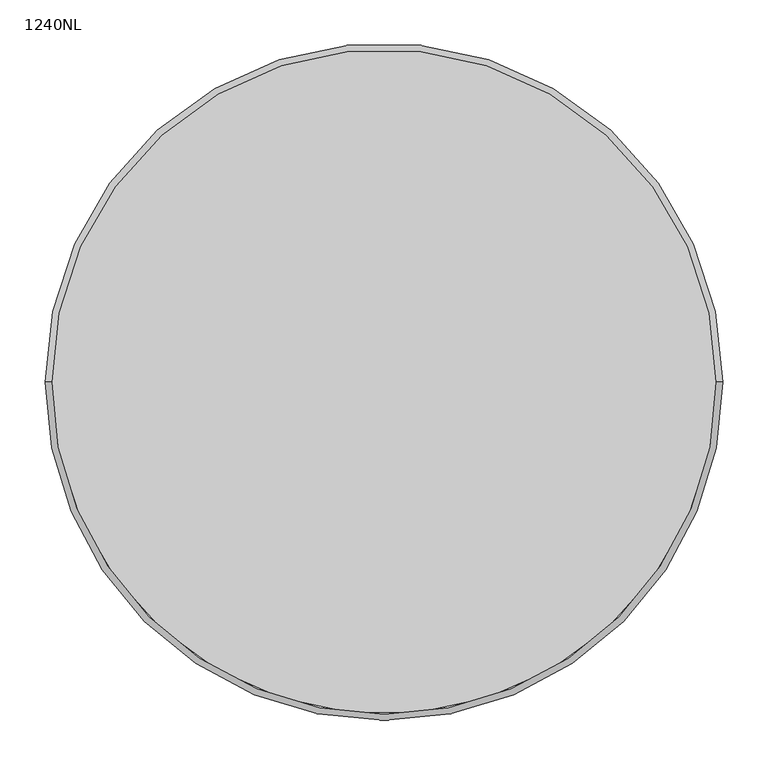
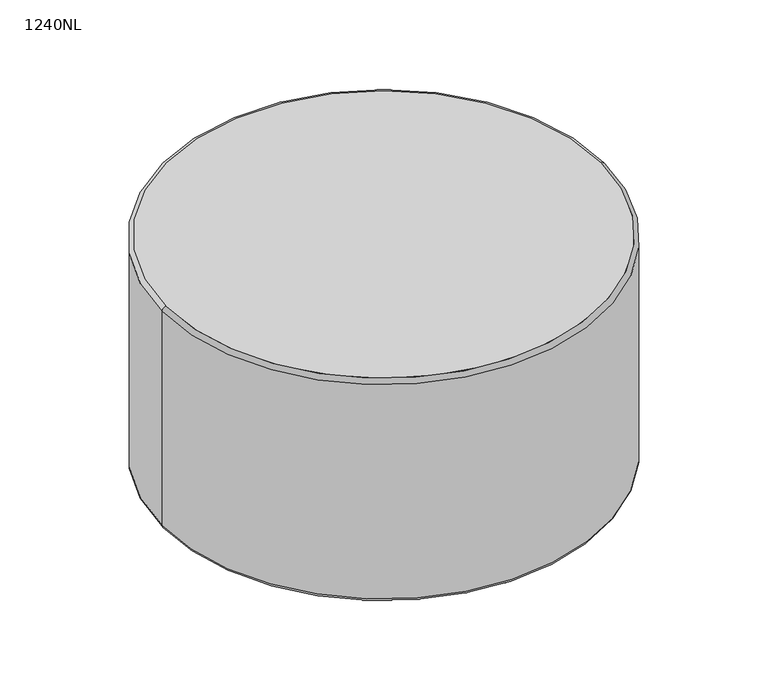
"""IFC4 building model written with IfcOpenShell, lengths in millimetres: furniture geometry, Laguna-Round_Ottomans-No_Legs-ERG : 1240NL."""

import ifcopenshell
import ifcopenshell.guid

model = None  # the IFC model being written
_history = None  # IfcOwnerHistory: only IFC2X3 demands one
_inside = {}  # id of a spatial element -> (the spatial element, [elements in it])
_under = {}  # id of a project, library or spatial element -> (it, [spatial elements below it])
_declared = {}  # id of a project -> (the project, [libraries it declares])
_typed = {}  # id of a type object -> (the type object, [elements of that type])
_made_of = {}  # id of a material, layer set ... -> (it, [elements and type objects made of it])


def new_model(schema):
    """Start an empty IFC model of exactly this schema.

    Asked for "IFC4X3", IfcOpenShell would pick the latest addendum, in which some entities
    have other attributes; the version numbers below select the first issue.
    IFC2X3 requires an IfcOwnerHistory on every rooted entity: one is made here for all.
    """
    global model, _history
    if schema == "IFC4X3":
        model = ifcopenshell.file(schema_version=(4, 3, 0, 0))
    else:
        model = ifcopenshell.file(schema=schema)
    _inside.clear()
    _under.clear()
    _declared.clear()
    _typed.clear()
    _made_of.clear()
    _history = None
    if model.schema == "IFC2X3":
        org = make("IfcOrganization", Name="unknown")
        user = make(
            "IfcPersonAndOrganization",
            ThePerson=make("IfcPerson", FamilyName="unknown"),
            TheOrganization=org,
        )
        app = make(
            "IfcApplication",
            ApplicationDeveloper=org,
            Version="unknown",
            ApplicationFullName="unknown",
            ApplicationIdentifier="unknown",
        )
        _history = make(
            "IfcOwnerHistory",
            OwningUser=user,
            OwningApplication=app,
            ChangeAction="ADDED",
            CreationDate=0,
        )
    return model


def make(cls, **values):
    """One entity of the class cls with the attributes given. An attribute that is None is left unset."""
    return model.create_entity(
        cls, **{name: value for name, value in values.items() if value is not None}
    )


def rooted(cls, **values):
    """An entity with a GlobalId (a new one), such as an element, a storey or a relation."""
    return make(cls, GlobalId=ifcopenshell.guid.new(), OwnerHistory=_history, **values)


def si_unit(unit_type, name, prefix=None):
    """IfcSIUnit, for example si_unit("LENGTHUNIT", "METRE", prefix="MILLI")."""
    return make("IfcSIUnit", UnitType=unit_type, Prefix=prefix, Name=name)


def assignment(units):
    """IfcUnitAssignment: the units of a project."""
    return None if units is None else make("IfcUnitAssignment", Units=units)


def point(xyz):
    """IfcCartesianPoint."""
    return None if xyz is None else make("IfcCartesianPoint", Coordinates=xyz)


def direction(xyz):
    """IfcDirection."""
    return None if xyz is None else make("IfcDirection", DirectionRatios=xyz)


def frame(location, z_axis=None, x_axis=None):
    """IfcAxis2Placement3D, a coordinate frame: its origin and axes. An axis left out is left unset."""
    return make(
        "IfcAxis2Placement3D",
        Location=point(location),
        Axis=direction(z_axis),
        RefDirection=direction(x_axis),
    )


def origin():
    """The frame at (0, 0, 0) with its axes left unset."""
    return frame((0.0, 0.0, 0.0))


def place(relative_to, where):
    """IfcLocalPlacement: puts the frame where relative to a parent placement (None: the world)."""
    return make(
        "IfcLocalPlacement", PlacementRelTo=relative_to, RelativePlacement=where
    )


def context(
    kind, dimensions, precision=None, world=None, true_north=None, identifier=None
):
    """IfcGeometricRepresentationContext, for example the 3D "Model" context."""
    return make(
        "IfcGeometricRepresentationContext",
        ContextIdentifier=identifier,
        ContextType=kind,
        CoordinateSpaceDimension=dimensions,
        Precision=precision,
        WorldCoordinateSystem=world,
        TrueNorth=true_north,
    )


def project(units=None, contexts=None):
    """IfcProject with its units and contexts."""
    return rooted(
        "IfcProject",
        Name="project",
        RepresentationContexts=contexts,
        UnitsInContext=assignment(units),
    )


def spatial(cls, under=None, at=None, **own):
    """A site, building, storey or space (cls), placed at a placement, below another one or the project."""
    s = rooted(cls, ObjectPlacement=at, **own)
    if under is not None:
        _under.setdefault(under.id(), (under, []))[1].append(s)
    return s


def circle_curve(where, radius):
    """IfcCircle in the frame where."""
    return make("IfcCircle", Position=where, Radius=radius)


def ellipse_curve(where, semi_axis1, semi_axis2):
    """IfcEllipse in the frame where."""
    return make(
        "IfcEllipse", Position=where, SemiAxis1=semi_axis1, SemiAxis2=semi_axis2
    )


def trimmed(basis, trim1, trim2, sense, master):
    """IfcTrimmedCurve: the piece of a basis curve between two trims."""
    return make(
        "IfcTrimmedCurve",
        BasisCurve=basis,
        Trim1=trim1,
        Trim2=trim2,
        SenseAgreement=sense,
        MasterRepresentation=master,
    )


def shape(context_of_items, identifier, shape_type, items):
    """IfcShapeRepresentation: the items that make up one representation, for example the "Body"."""
    return make(
        "IfcShapeRepresentation",
        ContextOfItems=context_of_items,
        RepresentationIdentifier=identifier,
        RepresentationType=shape_type,
        Items=items,
    )


def source(mapping_origin, context_of_items, identifier, shape_type, items):
    """IfcRepresentationMap: a shape defined once, which mapped items show again and again."""
    return make(
        "IfcRepresentationMap",
        MappingOrigin=mapping_origin,
        MappedRepresentation=shape(context_of_items, identifier, shape_type, items),
    )


def transform(
    local_origin,
    x_axis=None,
    y_axis=None,
    z_axis=None,
    scale=None,
    scale2=None,
    scale3=None,
    uniform=True,
):
    """IfcCartesianTransformationOperator3D, or its non-uniform kind. x_axis, y_axis, z_axis: its Axis1, 2, 3."""
    if uniform:
        return make(
            "IfcCartesianTransformationOperator3D",
            Axis1=direction(x_axis),
            Axis2=direction(y_axis),
            LocalOrigin=point(local_origin),
            Scale=scale,
            Axis3=direction(z_axis),
        )
    return make(
        "IfcCartesianTransformationOperator3DnonUniform",
        Axis1=direction(x_axis),
        Axis2=direction(y_axis),
        LocalOrigin=point(local_origin),
        Scale=scale,
        Axis3=direction(z_axis),
        Scale2=scale2,
        Scale3=scale3,
    )


def mapped(mapping_source, mapping_target):
    """IfcMappedItem: shows the shape of a source again, moved by a transform."""
    return make(
        "IfcMappedItem", MappingSource=mapping_source, MappingTarget=mapping_target
    )


def made_of(thing, what):
    """Note that an element or type object is made of a material, layer set ...; save() writes the relation."""
    if what is not None:
        _made_of.setdefault(what.id(), (what, []))[1].append(thing)
    return thing


def element(
    cls,
    number,
    at=None,
    inside=None,
    cuts=None,
    type_object=None,
    material=None,
    context=None,
    identifier="Body",
    shape_type=None,
    held_by="IfcProductDefinitionShape",
    body=None,
    shapes=None,
    **own,
):
    """One element of the class cls, such as IfcWall. Its Tag is "e" and its number.

    at: its placement. inside: the storey or other place that contains it. cuts: it is an
    opening in that element (IfcRelVoidsElement). A single representation is given by context,
    identifier, shape_type and body (its items); several are given by shapes. held_by: the class
    of the entity that holds the representations. save() writes the other relations.
    """
    e = rooted(cls, Tag="e%d" % number, ObjectPlacement=at, **own)
    if body is not None:
        shapes = [shape(context, identifier, shape_type, body)]
    if shapes is not None:
        e.Representation = make(held_by, Representations=shapes)
    if inside is not None:
        _inside.setdefault(inside.id(), (inside, []))[1].append(e)
    if cuts is not None:
        rooted(
            "IfcRelVoidsElement", RelatingBuildingElement=cuts, RelatedOpeningElement=e
        )
    if type_object is not None:
        _typed.setdefault(type_object.id(), (type_object, []))[1].append(e)
    return made_of(e, material)


def aggregate(whole, parts):
    """IfcRelAggregates: a whole, such as a stair, and the parts it consists of."""
    return rooted("IfcRelAggregates", RelatingObject=whole, RelatedObjects=parts)


def save(model, path):
    """Write the relations noted so far, then the file.

    IfcRelAggregates (storeys below a building ...), IfcRelContainedInSpatialStructure (elements
    in a storey), IfcRelDefinesByType, IfcRelAssociatesMaterial and IfcRelDeclares: one each for
    every whole, place, type object, material and project.
    """
    for whole, parts in _under.values():
        aggregate(whole, parts)
    for where, things in _inside.values():
        rooted(
            "IfcRelContainedInSpatialStructure",
            RelatedElements=things,
            RelatingStructure=where,
        )
    for kind, things in _typed.values():
        rooted("IfcRelDefinesByType", RelatedObjects=things, RelatingType=kind)
    for what, things in _made_of.values():
        rooted("IfcRelAssociatesMaterial", RelatedObjects=things, RelatingMaterial=what)
    for by, libraries in _declared.values():
        rooted("IfcRelDeclares", RelatingContext=by, RelatedDefinitions=libraries)
    model.write(path)


def plane_surface(at):
    """IfcPlane: the flat surface through the origin of the frame at, square to its z axis."""
    return make("IfcPlane", Position=at)


def cylinder_surface(at, radius):
    """IfcCylindricalSurface: all points at the distance radius from the z axis of the frame at."""
    return make("IfcCylindricalSurface", Position=at, Radius=radius)


def revolved_surface(curve, axis_point, axis_direction):
    """IfcSurfaceOfRevolution: the curve turned about the line through axis_point along axis_direction."""
    return make(
        "IfcSurfaceOfRevolution",
        SweptCurve=make("IfcArbitraryOpenProfileDef", ProfileType="CURVE", Curve=curve),
        AxisPosition=make("IfcAxis1Placement", Location=point(axis_point), Axis=direction(axis_direction)),
    )


def advanced_brep(points, edges, surfaces, faces):
    """IfcAdvancedBrep: a solid bounded by faces that lie on surfaces and meet in shared edges.

    An edge is (start, end): straight between two places in points (the first is 0);
    or (start, end, curve); or (start, end, curve, False) where it runs against its curve.
    A face is (place in surfaces, loops), or (place, loops, False) where it looks against
    its surface's normal. A loop lists edges by number (the first is 1), with a minus sign
    where the edge is run from its end to its start. The first loop is the outer one.
    """
    corners = [point(p) for p in points]
    vertices = [make("IfcVertexPoint", VertexGeometry=c) for c in corners]
    made = []
    for start, end, *more in edges:
        made.append(
            make(
                "IfcEdgeCurve",
                EdgeStart=vertices[start],
                EdgeEnd=vertices[end],
                EdgeGeometry=more[0] if more else make("IfcPolyline", Points=[corners[start], corners[end]]),
                SameSense=more[1] if len(more) > 1 else True,
            )
        )
    hull = []
    for where, loops, *sense in faces:
        bounds = []
        for j, loop in enumerate(loops):
            ring = [make("IfcOrientedEdge", EdgeElement=made[abs(k) - 1], Orientation=k > 0) for k in loop]
            bounds.append(
                make(
                    "IfcFaceOuterBound" if j == 0 else "IfcFaceBound",
                    Bound=make("IfcEdgeLoop", EdgeList=ring),
                    Orientation=True,
                )
            )
        hull.append(make("IfcAdvancedFace", Bounds=bounds, FaceSurface=surfaces[where], SameSense=sense[0] if sense else True))
    return make("IfcAdvancedBrep", Outer=make("IfcClosedShell", CfsFaces=hull))


def furniture_1240nl_d53e7f1e(model_context):
    return source(origin(), model_context, "Body", "AdvancedBrep", [
        advanced_brep(
        [(-4319.8421763, 1234.1558502, 10.16), (-4324.0852245, 1234.1558502, 10.16), (-4315.5991282, 1234.1558502, 10.16), (-4305.7638229, 1234.1558502, 0.0), (-4333.9205297, 1234.1558502, 0.0), (-4319.8421763, 1234.1558502, 0.0), (-4305.7638229, 1234.1558502, 3.9615026), (-4333.9205297, 1234.1558502, 3.9615026), (-4315.5991282, 1234.1558502, 3.9615026), (-4324.0852245, 1234.1558502, 3.9615026)],
        [
            (0, 1),
            (1, 2, circle_curve(frame((-4319.8421763, 1234.1558502, 10.16), z_axis=(0.0, 0.0, 1.0), x_axis=(-1.0, 0.0, 0.0)), 4.2430482)),
            (2, 0),
            (2, 1, circle_curve(frame((-4319.8421763, 1234.1558502, 10.16), z_axis=(0.0, 0.0, 1.0), x_axis=(-1.0, 0.0, 0.0)), 4.2430482)),
            (3, 4, circle_curve(frame((-4319.8421763, 1234.1558502, 0.0), z_axis=(0.0, 0.0, -1.0), x_axis=(-1.0, 0.0, 0.0)), 14.0783534)),
            (4, 5),
            (5, 3),
            (4, 3, circle_curve(frame((-4319.8421763, 1234.1558502, 0.0), z_axis=(0.0, 0.0, -1.0), x_axis=(-1.0, 0.0, 0.0)), 14.0783534)),
            (6, 7, circle_curve(frame((-4319.8421763, 1234.1558502, 3.9615026), z_axis=(0.0, 0.0, -1.0), x_axis=(-1.0, 0.0, 0.0)), 14.0783534)),
            (7, 4),
            (3, 6),
            (7, 6, circle_curve(frame((-4319.8421763, 1234.1558502, 3.9615026), z_axis=(0.0, 0.0, -1.0), x_axis=(-1.0, 0.0, 0.0)), 14.0783534)),
            (8, 9, circle_curve(frame((-4319.8421763, 1234.1558502, 3.9615026), z_axis=(0.0, 0.0, -1.0), x_axis=(-1.0, 0.0, 0.0)), 4.2430482)),
            (9, 7),
            (6, 8),
            (9, 8, circle_curve(frame((-4319.8421763, 1234.1558502, 3.9615026), z_axis=(0.0, 0.0, -1.0), x_axis=(-1.0, 0.0, 0.0)), 4.2430482)),
            (1, 9),
            (8, 2),
        ],
        [
            plane_surface(frame((-4319.8421763, 1234.1558502, 10.16), z_axis=(0.0, 0.0, 1.0), x_axis=(-1.0, 0.0, 0.0))),
            plane_surface(frame((-4319.8421763, 1234.1558502, 0.0), z_axis=(0.0, 0.0, -1.0), x_axis=(-1.0, 0.0, 0.0))),
            cylinder_surface(frame((-4319.8421763, 1234.1558502, 80.01), z_axis=(0.0, 0.0, 1.0), x_axis=(-1.0, 0.0, 0.0)), 14.0783534),
            plane_surface(frame((-4319.8421763, 1234.1558502, 3.9615026), z_axis=(0.0, 0.0, 1.0), x_axis=(-1.0, 0.0, 0.0))),
            cylinder_surface(frame((-4319.8421763, 1234.1558502, 80.01), z_axis=(0.0, 0.0, 1.0), x_axis=(-1.0, 0.0, 0.0)), 4.2430482),
        ],
        [
            (0, [[1, 2, 3]]),
            (0, [[-3, 4, -1]]),
            (1, [[5, 6, 7]]),
            (1, [[8, -7, -6]]),
            (2, [[9, 10, -5, 11]]),
            (2, [[12, -11, -8, -10]]),
            (3, [[13, 14, -9, 15]]),
            (3, [[16, -15, -12, -14]]),
            (4, [[-2, 17, -13, 18]]),
            (4, [[-4, -18, -16, -17]]),
        ],
    ),
        advanced_brep(
        [(-5009.8852245, 1234.1558502, 3.9615026), (-5001.3991282, 1234.1558502, 3.9615026), (-5001.3991282, 1234.1558502, 10.16), (-5009.8852245, 1234.1558502, 10.16), (-5019.7205297, 1234.1558502, 3.9615026), (-4991.5638229, 1234.1558502, 3.9615026), (-5019.7205297, 1234.1558502, 0.0), (-4991.5638229, 1234.1558502, 0.0), (-5005.6421763, 1234.1558502, 0.0), (-5005.6421763, 1234.1558502, 10.16)],
        [
            (0, 1, circle_curve(frame((-5005.6421763, 1234.1558502, 3.9615026), z_axis=(0.0, 0.0, 1.0), x_axis=(1.0, 0.0, 0.0)), 4.2430482)),
            (1, 2),
            (2, 3, circle_curve(frame((-5005.6421763, 1234.1558502, 10.16), z_axis=(0.0, 0.0, -1.0), x_axis=(1.0, 0.0, 0.0)), 4.2430482)),
            (3, 0),
            (1, 0, circle_curve(frame((-5005.6421763, 1234.1558502, 3.9615026), z_axis=(0.0, 0.0, 1.0), x_axis=(1.0, 0.0, 0.0)), 4.2430482)),
            (3, 2, circle_curve(frame((-5005.6421763, 1234.1558502, 10.16), z_axis=(0.0, 0.0, -1.0), x_axis=(1.0, 0.0, 0.0)), 4.2430482)),
            (4, 5, circle_curve(frame((-5005.6421763, 1234.1558502, 3.9615026), z_axis=(0.0, 0.0, 1.0), x_axis=(1.0, 0.0, 0.0)), 14.0783534)),
            (5, 1),
            (0, 4),
            (5, 4, circle_curve(frame((-5005.6421763, 1234.1558502, 3.9615026), z_axis=(0.0, 0.0, 1.0), x_axis=(1.0, 0.0, 0.0)), 14.0783534)),
            (6, 7, circle_curve(frame((-5005.6421763, 1234.1558502, 0.0), z_axis=(0.0, 0.0, 1.0), x_axis=(1.0, 0.0, 0.0)), 14.0783534)),
            (7, 5),
            (4, 6),
            (7, 6, circle_curve(frame((-5005.6421763, 1234.1558502, 0.0), z_axis=(0.0, 0.0, 1.0), x_axis=(1.0, 0.0, 0.0)), 14.0783534)),
            (8, 7),
            (6, 8),
            (2, 9),
            (9, 3),
        ],
        [
            cylinder_surface(frame((-5005.6421763, 1234.1558502, 29.21), z_axis=(0.0, 0.0, -1.0), x_axis=(1.0, 0.0, 0.0)), 4.2430482),
            plane_surface(frame((-5005.6421763, 1234.1558502, 3.9615026), z_axis=(0.0, 0.0, 1.0), x_axis=(1.0, 0.0, 0.0))),
            cylinder_surface(frame((-5005.6421763, 1234.1558502, 29.21), z_axis=(0.0, 0.0, -1.0), x_axis=(1.0, 0.0, 0.0)), 14.0783534),
            plane_surface(frame((-5005.6421763, 1234.1558502, 0.0), z_axis=(0.0, 0.0, -1.0), x_axis=(1.0, 0.0, 0.0))),
            plane_surface(frame((-5005.6421763, 1234.1558502, 10.16), z_axis=(0.0, 0.0, 1.0), x_axis=(1.0, 0.0, 0.0))),
        ],
        [
            (0, [[1, 2, 3, 4]]),
            (0, [[5, -4, 6, -2]]),
            (1, [[7, 8, -1, 9]]),
            (1, [[10, -9, -5, -8]]),
            (2, [[11, 12, -7, 13]]),
            (2, [[14, -13, -10, -12]]),
            (3, [[15, -11, 16]]),
            (3, [[-16, -14, -15]]),
            (4, [[-3, 17, 18]]),
            (4, [[-6, -18, -17]]),
        ],
    ),
        advanced_brep(
        [(-4662.7421763, 895.4988983, 3.9615026), (-4662.7421763, 887.012802, 3.9615026), (-4662.7421763, 887.012802, 10.16), (-4662.7421763, 895.4988983, 10.16), (-4662.7421763, 905.3342036, 3.9615026), (-4662.7421763, 877.1774967, 3.9615026), (-4662.7421763, 905.3342036, 0.0), (-4662.7421763, 877.1774967, 0.0), (-4662.7421763, 891.2558502, 0.0), (-4662.7421763, 891.2558502, 10.16)],
        [
            (0, 1, circle_curve(frame((-4662.7421763, 891.2558502, 3.9615026), z_axis=(0.0, 0.0, 1.0), x_axis=(0.0, -1.0, 0.0)), 4.2430482)),
            (1, 2),
            (2, 3, circle_curve(frame((-4662.7421763, 891.2558502, 10.16), z_axis=(0.0, 0.0, -1.0), x_axis=(0.0, -1.0, 0.0)), 4.2430482)),
            (3, 0),
            (1, 0, circle_curve(frame((-4662.7421763, 891.2558502, 3.9615026), z_axis=(0.0, 0.0, 1.0), x_axis=(0.0, -1.0, 0.0)), 4.2430482)),
            (3, 2, circle_curve(frame((-4662.7421763, 891.2558502, 10.16), z_axis=(0.0, 0.0, -1.0), x_axis=(0.0, -1.0, 0.0)), 4.2430482)),
            (4, 5, circle_curve(frame((-4662.7421763, 891.2558502, 3.9615026), z_axis=(0.0, 0.0, 1.0), x_axis=(0.0, -1.0, 0.0)), 14.0783534)),
            (5, 1),
            (0, 4),
            (5, 4, circle_curve(frame((-4662.7421763, 891.2558502, 3.9615026), z_axis=(0.0, 0.0, 1.0), x_axis=(0.0, -1.0, 0.0)), 14.0783534)),
            (6, 7, circle_curve(frame((-4662.7421763, 891.2558502, 0.0), z_axis=(0.0, 0.0, 1.0), x_axis=(0.0, -1.0, 0.0)), 14.0783534)),
            (7, 5),
            (4, 6),
            (7, 6, circle_curve(frame((-4662.7421763, 891.2558502, 0.0), z_axis=(0.0, 0.0, 1.0), x_axis=(0.0, -1.0, 0.0)), 14.0783534)),
            (8, 7),
            (6, 8),
            (2, 9),
            (9, 3),
        ],
        [
            cylinder_surface(frame((-4662.7421763, 891.2558502, 39.775957), z_axis=(0.0, 0.0, -1.0), x_axis=(0.0, -1.0, 0.0)), 4.2430482),
            plane_surface(frame((-4662.7421763, 891.2558502, 3.9615026), z_axis=(0.0, 0.0, 1.0), x_axis=(0.0, -1.0, 0.0))),
            cylinder_surface(frame((-4662.7421763, 891.2558502, 39.775957), z_axis=(0.0, 0.0, -1.0), x_axis=(0.0, -1.0, 0.0)), 14.0783534),
            plane_surface(frame((-4662.7421763, 891.2558502, 0.0), z_axis=(0.0, 0.0, -1.0), x_axis=(0.0, -1.0, 0.0))),
            plane_surface(frame((-4662.7421763, 891.2558502, 10.16), z_axis=(0.0, 0.0, 1.0), x_axis=(0.0, -1.0, 0.0))),
        ],
        [
            (0, [[1, 2, 3, 4]]),
            (0, [[5, -4, 6, -2]]),
            (1, [[7, 8, -1, 9]]),
            (1, [[10, -9, -5, -8]]),
            (2, [[11, 12, -7, 13]]),
            (2, [[14, -13, -10, -12]]),
            (3, [[15, -11, 16]]),
            (3, [[-16, -14, -15]]),
            (4, [[-3, 17, 18]]),
            (4, [[-6, -18, -17]]),
        ],
    ),
        advanced_brep(
        [(-4662.7421763, 1581.2988983, 3.9615026), (-4662.7421763, 1572.812802, 3.9615026), (-4662.7421763, 1572.812802, 10.16), (-4662.7421763, 1581.2988983, 10.16), (-4662.7421763, 1591.1342036, 3.9615026), (-4662.7421763, 1562.9774967, 3.9615026), (-4662.7421763, 1591.1342036, 0.0), (-4662.7421763, 1562.9774967, 0.0), (-4662.7421763, 1577.0558502, 0.0), (-4662.7421763, 1577.0558502, 10.16)],
        [
            (0, 1, circle_curve(frame((-4662.7421763, 1577.0558502, 3.9615026), z_axis=(0.0, 0.0, 1.0), x_axis=(0.0, -1.0, 0.0)), 4.2430482)),
            (1, 2),
            (2, 3, circle_curve(frame((-4662.7421763, 1577.0558502, 10.16), z_axis=(0.0, 0.0, -1.0), x_axis=(0.0, -1.0, 0.0)), 4.2430482)),
            (3, 0),
            (1, 0, circle_curve(frame((-4662.7421763, 1577.0558502, 3.9615026), z_axis=(0.0, 0.0, 1.0), x_axis=(0.0, -1.0, 0.0)), 4.2430482)),
            (3, 2, circle_curve(frame((-4662.7421763, 1577.0558502, 10.16), z_axis=(0.0, 0.0, -1.0), x_axis=(0.0, -1.0, 0.0)), 4.2430482)),
            (4, 5, circle_curve(frame((-4662.7421763, 1577.0558502, 3.9615026), z_axis=(0.0, 0.0, 1.0), x_axis=(0.0, -1.0, 0.0)), 14.0783534)),
            (5, 1),
            (0, 4),
            (5, 4, circle_curve(frame((-4662.7421763, 1577.0558502, 3.9615026), z_axis=(0.0, 0.0, 1.0), x_axis=(0.0, -1.0, 0.0)), 14.0783534)),
            (6, 7, circle_curve(frame((-4662.7421763, 1577.0558502, 0.0), z_axis=(0.0, 0.0, 1.0), x_axis=(0.0, -1.0, 0.0)), 14.0783534)),
            (7, 5),
            (4, 6),
            (7, 6, circle_curve(frame((-4662.7421763, 1577.0558502, 0.0), z_axis=(0.0, 0.0, 1.0), x_axis=(0.0, -1.0, 0.0)), 14.0783534)),
            (8, 7),
            (6, 8),
            (2, 9),
            (9, 3),
        ],
        [
            cylinder_surface(frame((-4662.7421763, 1577.0558502, 48.26), z_axis=(0.0, 0.0, -1.0), x_axis=(0.0, -1.0, 0.0)), 4.2430482),
            plane_surface(frame((-4662.7421763, 1577.0558502, 3.9615026), z_axis=(0.0, 0.0, 1.0), x_axis=(0.0, -1.0, 0.0))),
            cylinder_surface(frame((-4662.7421763, 1577.0558502, 48.26), z_axis=(0.0, 0.0, -1.0), x_axis=(0.0, -1.0, 0.0)), 14.0783534),
            plane_surface(frame((-4662.7421763, 1577.0558502, 0.0), z_axis=(0.0, 0.0, -1.0), x_axis=(0.0, -1.0, 0.0))),
            plane_surface(frame((-4662.7421763, 1577.0558502, 10.16), z_axis=(0.0, 0.0, 1.0), x_axis=(0.0, -1.0, 0.0))),
        ],
        [
            (0, [[1, 2, 3, 4]]),
            (0, [[5, -4, 6, -2]]),
            (1, [[7, 8, -1, 9]]),
            (1, [[10, -9, -5, -8]]),
            (2, [[11, 12, -7, 13]]),
            (2, [[14, -13, -10, -12]]),
            (3, [[15, -11, 16]]),
            (3, [[-16, -14, -15]]),
            (4, [[-3, 17, 18]]),
            (4, [[-6, -18, -17]]),
        ],
    ),
        advanced_brep(
        [(-4288.081116, 1234.1558502, 399.8831003), (-5037.4032366, 1234.1558502, 399.8831003), (-5037.4032366, 1234.1558502, 16.6768997), (-4288.081116, 1234.1558502, 16.6768997), (-4295.0439761, 1234.1558502, 406.4), (-5030.4403765, 1234.1558502, 406.4), (-5030.4403765, 1234.1558502, 10.16), (-4295.0439761, 1234.1558502, 10.16)],
        [
            (0, 1, circle_curve(frame((-4662.7421763, 1234.1558502, 399.8831003), z_axis=(0.0, 0.0, -1.0), x_axis=(-1.0, 0.0, 0.0)), 374.6610603)),
            (1, 2, circle_curve(frame((-2144.8401763, 1234.1558502, 208.28), z_axis=(0.0, -1.0, 0.0), x_axis=(1.0, 0.0, 0.0)), 2898.902)),
            (2, 3, circle_curve(frame((-4662.7421763, 1234.1558502, 16.6768997), z_axis=(0.0, 0.0, 1.0), x_axis=(-1.0, 0.0, 0.0)), 374.6610603)),
            (3, 0, circle_curve(frame((-7180.6441763, 1234.1558502, 208.28), z_axis=(0.0, -1.0, 0.0), x_axis=(-1.0, 0.0, 0.0)), 2898.902)),
            (0, 4, circle_curve(frame((-4295.0439761, 1234.1558502, 399.4218811), z_axis=(0.0, -1.0, 0.0), x_axis=(-1.0, 0.0, 0.0)), 6.9781189)),
            (4, 5, circle_curve(frame((-4662.7421763, 1234.1558502, 406.4), z_axis=(0.0, 0.0, -1.0), x_axis=(-1.0, 0.0, 0.0)), 367.6982002)),
            (5, 1, circle_curve(frame((-5030.4403765, 1234.1558502, 399.4218811), z_axis=(0.0, -1.0, 0.0), x_axis=(1.0, 0.0, 0.0)), 6.9781189)),
            (2, 6, circle_curve(frame((-5030.4403765, 1234.1558502, 17.1381189), z_axis=(0.0, -1.0, 0.0), x_axis=(1.0, 0.0, 0.0)), 6.9781189)),
            (6, 7, circle_curve(frame((-4662.7421763, 1234.1558502, 10.16), z_axis=(0.0, 0.0, 1.0), x_axis=(-1.0, 0.0, 0.0)), 367.6982002)),
            (7, 3, circle_curve(frame((-4295.0439761, 1234.1558502, 17.1381189), z_axis=(0.0, -1.0, 0.0), x_axis=(-1.0, 0.0, 0.0)), 6.9781189)),
            (1, 0, circle_curve(frame((-4662.7421763, 1234.1558502, 399.8831003), z_axis=(0.0, 0.0, -1.0), x_axis=(1.0, 0.0, 0.0)), 374.6610603)),
            (3, 2, circle_curve(frame((-4662.7421763, 1234.1558502, 16.6768997), z_axis=(0.0, 0.0, 1.0), x_axis=(1.0, 0.0, 0.0)), 374.6610603)),
            (5, 4, circle_curve(frame((-4662.7421763, 1234.1558502, 406.4), z_axis=(0.0, 0.0, -1.0), x_axis=(1.0, 0.0, 0.0)), 367.6982002)),
            (7, 6, circle_curve(frame((-4662.7421763, 1234.1558502, 10.16), z_axis=(0.0, 0.0, 1.0), x_axis=(1.0, 0.0, 0.0)), 367.6982002)),
        ],
        [
            revolved_surface(trimmed(ellipse_curve(frame((-2144.8401763, 1234.1558502, 208.28), z_axis=(0.0, 1.0, 0.0), x_axis=(1.0, 0.0, 0.0)), 2898.902, 2898.902), [point((-5037.4032366, 1234.1558502, 16.6768997))], [point((-5037.4032366, 1234.1558502, 399.8831003))], True, "CARTESIAN"), (-4662.7421763, 1234.1558502, 0.0), (0.0, 0.0, 1.0)),
            revolved_surface(trimmed(ellipse_curve(frame((-5030.4403765, 1234.1558502, 399.4218811), z_axis=(0.0, 1.0, 0.0), x_axis=(1.0, 0.0, 0.0)), 6.9781189, 6.9781189), [point((-5037.4032366, 1234.1558502, 399.8831003))], [point((-5030.4403765, 1234.1558502, 406.4))], True, "CARTESIAN"), (-4662.7421763, 1234.1558502, 0.0), (0.0, 0.0, 1.0)),
            revolved_surface(trimmed(ellipse_curve(frame((-5030.4403765, 1234.1558502, 17.1381189), z_axis=(0.0, 1.0, 0.0), x_axis=(1.0, 0.0, 0.0)), 6.9781189, 6.9781189), [point((-5030.4403765, 1234.1558502, 10.16))], [point((-5037.4032366, 1234.1558502, 16.6768997))], True, "CARTESIAN"), (-4662.7421763, 1234.1558502, 0.0), (0.0, 0.0, 1.0)),
            revolved_surface(trimmed(ellipse_curve(frame((-7180.6441763, 1234.1558502, 208.28), z_axis=(0.0, -1.0, 0.0), x_axis=(-1.0, 0.0, 0.0)), 2898.902, 2898.902), [point((-4288.081116, 1234.1558502, 16.6768997))], [point((-4288.081116, 1234.1558502, 399.8831003))], True, "CARTESIAN"), (-4662.7421763, 1234.1558502, 0.0), (0.0, 0.0, 1.0)),
            revolved_surface(trimmed(ellipse_curve(frame((-4295.0439761, 1234.1558502, 399.4218811), z_axis=(0.0, -1.0, 0.0), x_axis=(-1.0, 0.0, 0.0)), 6.9781189, 6.9781189), [point((-4288.081116, 1234.1558502, 399.8831003))], [point((-4295.0439761, 1234.1558502, 406.4))], True, "CARTESIAN"), (-4662.7421763, 1234.1558502, 0.0), (0.0, 0.0, 1.0)),
            revolved_surface(trimmed(ellipse_curve(frame((-4295.0439761, 1234.1558502, 17.1381189), z_axis=(0.0, -1.0, 0.0), x_axis=(-1.0, 0.0, 0.0)), 6.9781189, 6.9781189), [point((-4295.0439761, 1234.1558502, 10.16))], [point((-4288.081116, 1234.1558502, 16.6768997))], True, "CARTESIAN"), (-4662.7421763, 1234.1558502, 0.0), (0.0, 0.0, 1.0)),
            plane_surface(frame((-4295.0439761, 1234.1558502, 406.4), z_axis=(0.0, 0.0, 1.0), x_axis=(0.0, 1.0, 0.0))),
            plane_surface(frame((-4295.0439761, 1234.1558502, 10.16), z_axis=(0.0, 0.0, -1.0), x_axis=(0.0, -1.0, 0.0))),
        ],
        [
            (0, [[1, 2, 3, 4]]),
            (1, [[-1, 5, 6, 7]]),
            (2, [[-3, 8, 9, 10]]),
            (3, [[-2, 11, -4, 12]]),
            (4, [[-7, 13, -5, -11]]),
            (5, [[-8, -12, -10, 14]]),
            (6, [[-6, -13]]),
            (7, [[-9, -14]]),
        ],
    ),
    ])


if __name__ == "__main__":
    model = new_model("IFC4")
    model_context = context("Model", 3, world=origin())
    ifc_project = project(units=[si_unit("LENGTHUNIT", "METRE", prefix="MILLI")], contexts=[model_context])
    site = spatial("IfcSite", under=ifc_project)
    building = spatial("IfcBuilding", under=site)
    placement = place(None, origin())
    furniture_1240nl_shape = furniture_1240nl_d53e7f1e(model_context)
    element("IfcFurniture", 1, ObjectType="Laguna-Round_Ottomans-No_Legs-ERG : 1240NL", at=placement, inside=building, context=model_context, shape_type="MappedRepresentation", body=[
        mapped(furniture_1240nl_shape, transform((0.0, 0.0, 0.0), x_axis=(1.0, 0.0, 0.0), y_axis=(0.0, 1.0, 0.0), z_axis=(0.0, 0.0, 1.0))),
    ])
    save(model, "model.ifc")
